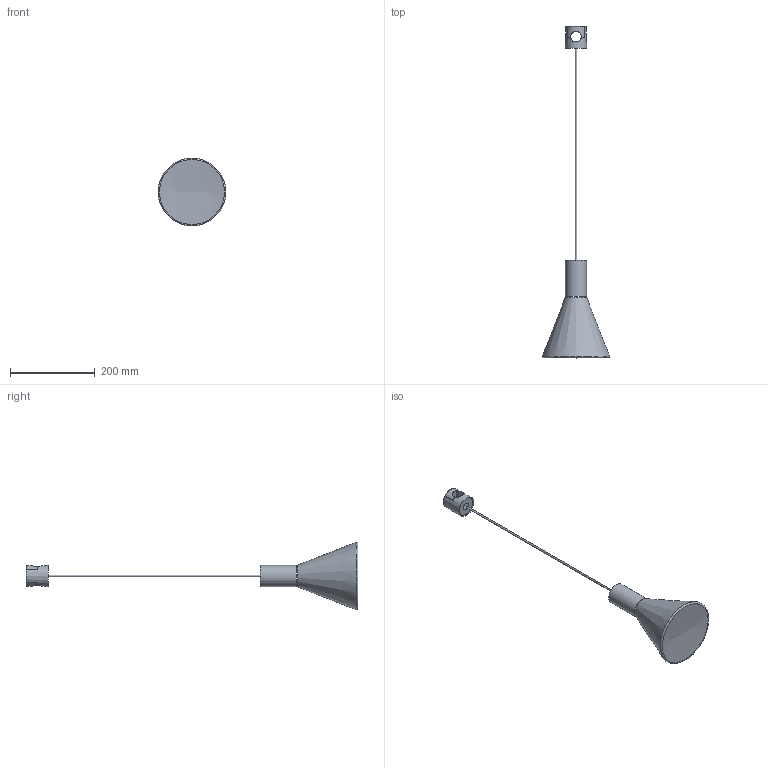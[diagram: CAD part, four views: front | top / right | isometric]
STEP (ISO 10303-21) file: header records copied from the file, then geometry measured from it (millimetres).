
FILE_DESCRIPTION(/* description */ (''),/* implementation_level */ '2;1');
FILE_NAME(/* name */ 'S:\UFFICIO TECNICO 2019\PRODOTTI ROTALIANA\SOUVLAKI\CONFIGURATORE\FILES X CONFIGURATORE\ipt INVENTOR\ASVSH_faretto sospeso a binario con diffusore conico.stp',/* time_stamp */ '2024-03-13T10:26:26+01:00',/* author */ ('mtesta'),/* organization */ (''),/* preprocessor_version */ 'ST-DEVELOPER v18.1',/* originating_system */ 'Autodesk Inventor 2021',/* authorisation */ '');
FILE_SCHEMA (('AUTOMOTIVE_DESIGN { 1 0 10303 214 3 1 1 }'));
Length unit declared in the file: millimetre
Products named in the file (1): A2647 CONICO
Bounding box: 160 x 783.65 x 160 mm (x, y, z)
Surface area: 101859.6 mm2 (no closed solid volume)
Topology: 0 solids, 7 shells, 22 faces, 148 edges, 136 vertices
Faces by surface type: plane 8, torus 6, cone 5, cylinder 2, sphere 1
Full cylindrical faces by diameter (mm): 4 x1, 50 x1
Entity records: 1853 total; most frequent: CARTESIAN_POINT 747, DIRECTION 204, ORIENTED_EDGE 157, EDGE_CURVE 128, VERTEX_POINT 113, AXIS2_PLACEMENT_3D 92, CIRCLE 61, B_SPLINE_CURVE_WITH_KNOTS 49
